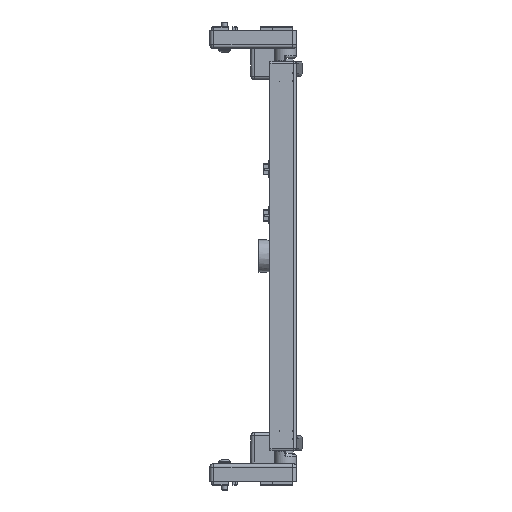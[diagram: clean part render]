
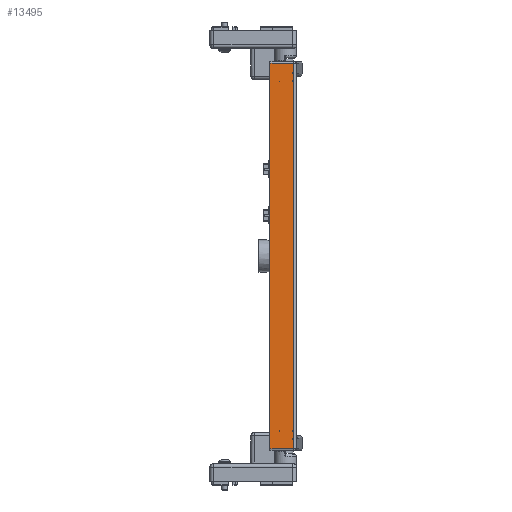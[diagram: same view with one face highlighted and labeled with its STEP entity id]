
A CAD part, left-side view. The second image highlights one B-rep face of the part: STEP entity #13495.
In plain terms, the highlighted planar face has unit normal (-1, 0, 0).
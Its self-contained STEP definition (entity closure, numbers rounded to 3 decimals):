
#281=LINE('',#34844,#2340);
#288=LINE('',#34917,#2347);
#306=LINE('',#35318,#2365);
#307=LINE('',#35320,#2366);
#2340=VECTOR('',#27767,1.);
#2347=VECTOR('',#27850,1.);
#2365=VECTOR('',#27930,1.);
#2366=VECTOR('',#27933,1.);
#12119=PLANE('',#25753);
#12642=FACE_OUTER_BOUND('',#14433,.T.);
#13495=ADVANCED_FACE('',(#12642),#12119,.F.);
#14433=EDGE_LOOP('',(#15928,#15929,#15930,#15931));
#15928=ORIENTED_EDGE('',*,*,#22083,.T.);
#15929=ORIENTED_EDGE('',*,*,#22029,.T.);
#15930=ORIENTED_EDGE('',*,*,#21994,.F.);
#15931=ORIENTED_EDGE('',*,*,#22082,.T.);
#19158=VERTEX_POINT('',#34843);
#19159=VERTEX_POINT('',#34845);
#19187=VERTEX_POINT('',#34918);
#19226=VERTEX_POINT('',#35300);
#21994=EDGE_CURVE('',#19158,#19159,#281,.T.);
#22029=EDGE_CURVE('',#19187,#19159,#288,.T.);
#22082=EDGE_CURVE('',#19158,#19226,#306,.T.);
#22083=EDGE_CURVE('',#19226,#19187,#307,.T.);
#25753=AXIS2_PLACEMENT_3D('',#35321,#27934,#27935);
#27767=DIRECTION('',(0.,0.,1.));
#27850=DIRECTION('',(0.,1.,0.));
#27930=DIRECTION('',(0.,-1.,0.));
#27933=DIRECTION('',(0.,0.,1.));
#27934=DIRECTION('',(1.,0.,0.));
#27935=DIRECTION('',(0.,1.,0.));
#34843=CARTESIAN_POINT('',(-274.,19.105,-297.894));
#34844=CARTESIAN_POINT('',(-274.,19.105,-3.894));
#34845=CARTESIAN_POINT('',(-274.,19.105,-3.894));
#34917=CARTESIAN_POINT('',(-274.,512.324,-3.894));
#34918=CARTESIAN_POINT('',(-274.,1.106,-3.894));
#35300=CARTESIAN_POINT('',(-274.,1.106,-297.894));
#35318=CARTESIAN_POINT('',(-274.,512.324,-297.894));
#35320=CARTESIAN_POINT('',(-274.,1.106,-3.894));
#35321=CARTESIAN_POINT('',(-274.,512.324,-3.894));
